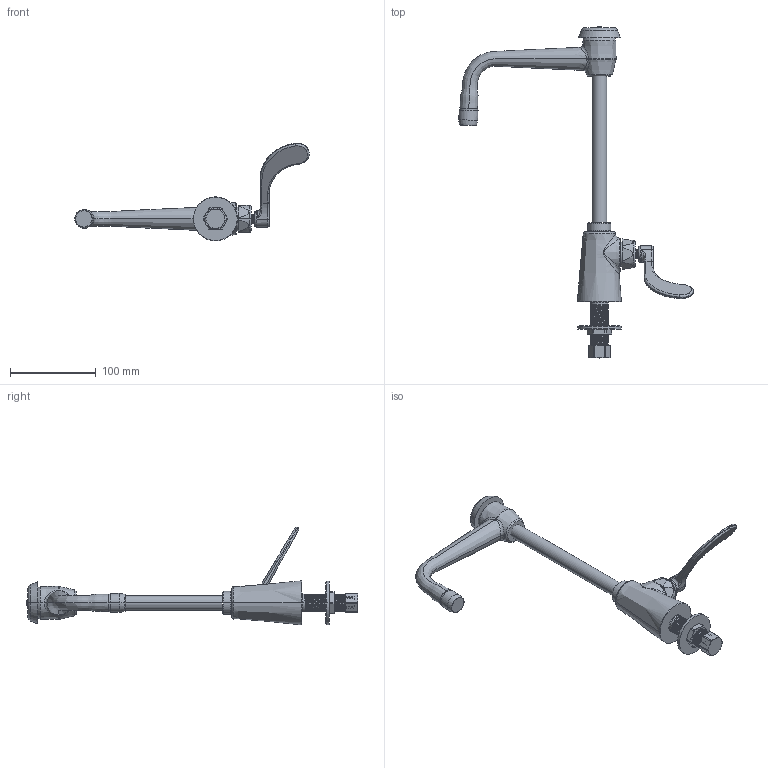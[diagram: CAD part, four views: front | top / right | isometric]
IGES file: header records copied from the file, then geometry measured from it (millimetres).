
Start section:  PTC IGES file: LWS3-B26-G.igs
Global section: file name: LWS3-B26-G.igs; native system: Creo Parametric by PTC Inc.; preprocessor: 2017260; author: usch_engrender; organization: Unknown; date: 20190829.154407; units: inch
Bounding box: 273.51 x 387.27 x 114.1 mm (x, y, z)
Surface area: 74309.1 mm2 (no closed solid volume)
Topology: 0 solids, 21 shells, 286 faces, 750 edges, 479 vertices
Faces by surface type: revolution 201, bspline 85
